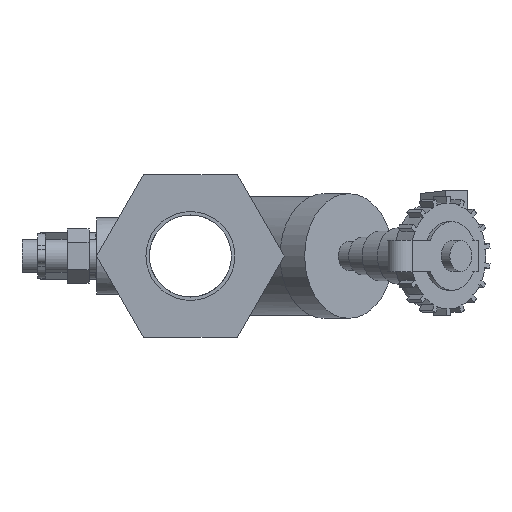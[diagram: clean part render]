
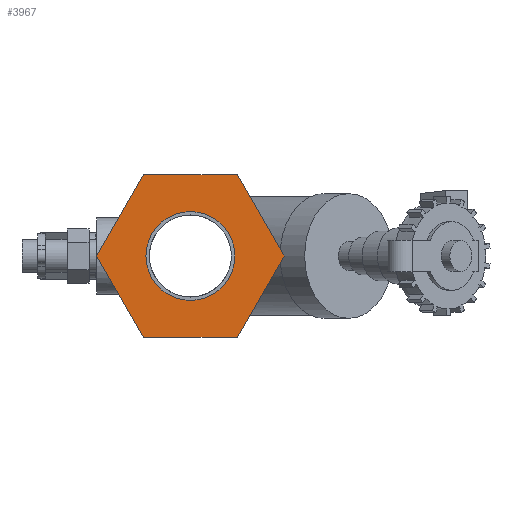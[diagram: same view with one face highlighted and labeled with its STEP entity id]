
A CAD part, left-side view. The second image highlights one B-rep face of the part: STEP entity #3967.
In plain terms, the highlighted planar face has unit normal (-1, 0, 0).
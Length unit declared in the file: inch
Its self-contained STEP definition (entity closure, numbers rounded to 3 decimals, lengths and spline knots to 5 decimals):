
#56=FACE_BOUND('',#431,.T.);
#209=FACE_OUTER_BOUND('',#430,.T.);
#430=EDGE_LOOP('',(#2692,#2693,#2694,#2695,#2696,#2697));
#431=EDGE_LOOP('',(#2698));
#670=CIRCLE('',#4246,0.7125);
#867=LINE('',#6475,#1220);
#868=LINE('',#6477,#1221);
#869=LINE('',#6479,#1222);
#870=LINE('',#6481,#1223);
#871=LINE('',#6483,#1224);
#872=LINE('',#6484,#1225);
#1220=VECTOR('',#4786,0.3937);
#1221=VECTOR('',#4787,0.3937);
#1222=VECTOR('',#4788,0.3937);
#1223=VECTOR('',#4789,0.3937);
#1224=VECTOR('',#4790,0.3937);
#1225=VECTOR('',#4791,0.3937);
#1617=VERTEX_POINT('',#6473);
#1618=VERTEX_POINT('',#6474);
#1619=VERTEX_POINT('',#6476);
#1620=VERTEX_POINT('',#6478);
#1621=VERTEX_POINT('',#6480);
#1622=VERTEX_POINT('',#6482);
#1623=VERTEX_POINT('',#6485);
#2040=EDGE_CURVE('',#1617,#1618,#867,.T.);
#2041=EDGE_CURVE('',#1618,#1619,#868,.T.);
#2042=EDGE_CURVE('',#1619,#1620,#869,.T.);
#2043=EDGE_CURVE('',#1620,#1621,#870,.T.);
#2044=EDGE_CURVE('',#1621,#1622,#871,.T.);
#2045=EDGE_CURVE('',#1622,#1617,#872,.T.);
#2046=EDGE_CURVE('',#1623,#1623,#670,.T.);
#2692=ORIENTED_EDGE('',*,*,#2040,.T.);
#2693=ORIENTED_EDGE('',*,*,#2041,.T.);
#2694=ORIENTED_EDGE('',*,*,#2042,.T.);
#2695=ORIENTED_EDGE('',*,*,#2043,.T.);
#2696=ORIENTED_EDGE('',*,*,#2044,.T.);
#2697=ORIENTED_EDGE('',*,*,#2045,.T.);
#2698=ORIENTED_EDGE('',*,*,#2046,.F.);
#3705=PLANE('',#4245);
#3967=ADVANCED_FACE('',(#209,#56),#3705,.T.);
#4245=AXIS2_PLACEMENT_3D('',#6472,#4784,#4785);
#4246=AXIS2_PLACEMENT_3D('',#6486,#4792,#4793);
#4784=DIRECTION('center_axis',(-1.,0.,0.));
#4785=DIRECTION('ref_axis',(0.,0.,1.));
#4786=DIRECTION('',(0.,1.,0.));
#4787=DIRECTION('',(0.,0.5,-0.866));
#4788=DIRECTION('',(0.,-0.5,-0.866));
#4789=DIRECTION('',(0.,-1.,0.));
#4790=DIRECTION('',(0.,-0.5,0.866));
#4791=DIRECTION('',(0.,0.5,0.866));
#4792=DIRECTION('center_axis',(-1.,0.,0.));
#4793=DIRECTION('ref_axis',(0.,1.,0.));
#6472=CARTESIAN_POINT('Origin',(-4.,0.,0.));
#6473=CARTESIAN_POINT('',(-4.,-0.75056,1.3));
#6474=CARTESIAN_POINT('',(-4.,0.75056,1.3));
#6475=CARTESIAN_POINT('',(-4.,0.75056,1.3));
#6476=CARTESIAN_POINT('',(-4.,1.50111,0.));
#6477=CARTESIAN_POINT('',(-4.,1.50111,0.));
#6478=CARTESIAN_POINT('',(-4.,0.75056,-1.3));
#6479=CARTESIAN_POINT('',(-4.,0.75056,-1.3));
#6480=CARTESIAN_POINT('',(-4.,-0.75056,-1.3));
#6481=CARTESIAN_POINT('',(-4.,-0.75056,-1.3));
#6482=CARTESIAN_POINT('',(-4.,-1.50111,0.));
#6483=CARTESIAN_POINT('',(-4.,-1.50111,0.));
#6484=CARTESIAN_POINT('',(-4.,-0.75056,1.3));
#6485=CARTESIAN_POINT('',(-4.,-0.7125,0.));
#6486=CARTESIAN_POINT('Origin',(-4.,0.,0.));
